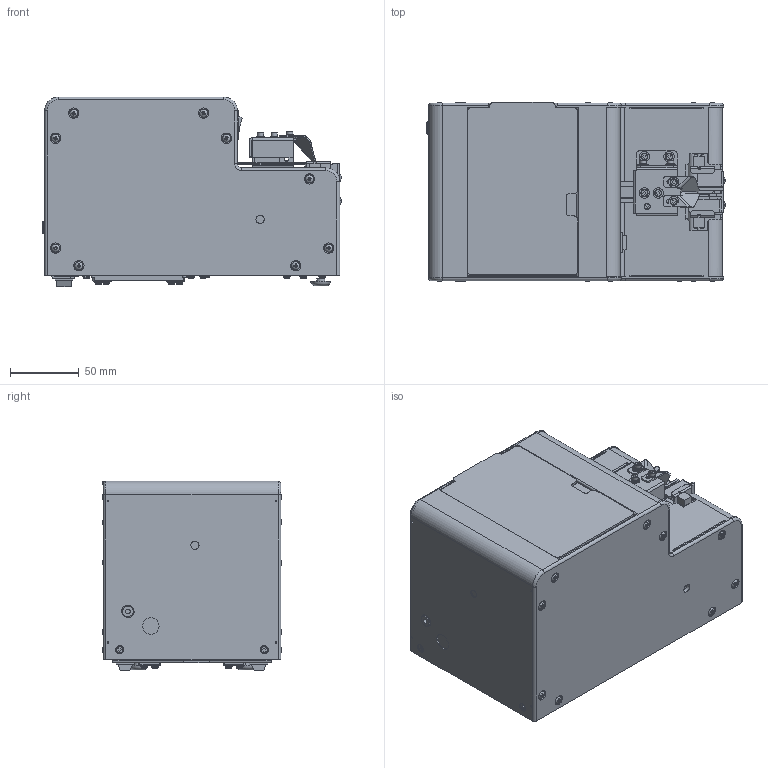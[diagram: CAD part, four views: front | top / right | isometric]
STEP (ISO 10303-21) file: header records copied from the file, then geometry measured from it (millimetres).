
FILE_DESCRIPTION(/* description */ (''),/* implementation_level */ '2;1');
FILE_NAME(/* name */ '',/* time_stamp */ '2024-09-02T11:27:21+09:00',/* author */ ('oikawa'),/* organization */ (''),/* preprocessor_version */ 'ST-DEVELOPER v20',/* originating_system */ 'Autodesk Inventor 2025',/* authorisation */ '');
FILE_SCHEMA (('CONFIG_CONTROL_DESIGN'));
Products named in the file (1): NJ00101_供給機ﾕﾆｯﾄ：NJ_簡略化_
1
Bounding box: 217.31 x 130.52 x 138.3 mm (x, y, z)
Volume: 2984084.4 mm3; surface area: 245859.7 mm2
Topology: 3 solids, 17 shells, 2228 faces, 5584 edges, 3674 vertices
Faces by surface type: plane 1607, cylinder 482, bspline 48, sphere 45, torus 34, cone 12
Full cylindrical faces by diameter (mm): 0.3 x1, 1 x6, 1.5 x4, 1.6 x4, 1.7 x4, 1.8 x2, 2 x1, 2.113 x2, 2.5 x2, 2.6 x49, 2.9 x11, 3 x15, 3.1 x2, 3.2 x7, 3.5 x1, 3.8 x2, 4 x3, 4.5 x36, 5.2 x30, 5.9 x21, 6 x8, 6.1 x1, 6.6 x1, 7 x1, 7.5 x45, 8 x1, 9 x2, 12 x1
Entity records: 68199 total; most frequent: CARTESIAN_POINT 13218, DIRECTION 11523, ORIENTED_EDGE 11172, EDGE_CURVE 5586, AXIS2_PLACEMENT_3D 3870, LINE 3783, VECTOR 3783, VERTEX_POINT 3674
